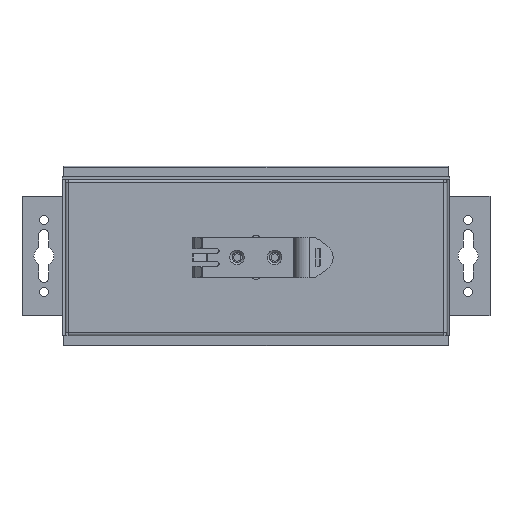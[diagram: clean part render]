
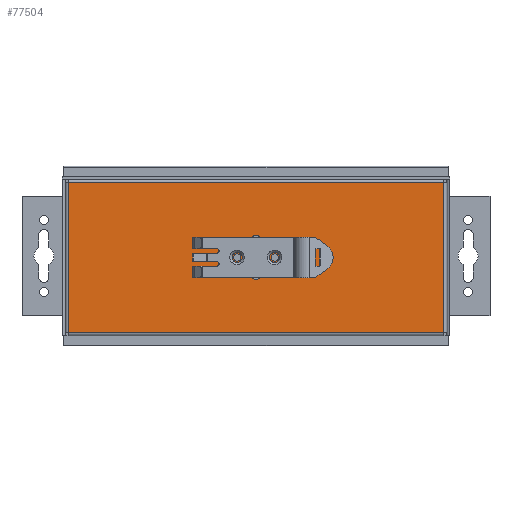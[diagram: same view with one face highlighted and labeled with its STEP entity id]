
A CAD part, front view. The second image highlights one B-rep face of the part: STEP entity #77504.
In plain terms, the highlighted planar face has unit normal (0, -1, 0).
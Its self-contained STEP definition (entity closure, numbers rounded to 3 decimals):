
#1082=FACE_BOUND('',#10909,.T.);
#1083=FACE_BOUND('',#10910,.T.);
#1084=FACE_BOUND('',#10911,.T.);
#1085=FACE_BOUND('',#10912,.T.);
#2281=PLANE('',#82310);
#6664=FACE_OUTER_BOUND('',#10908,.T.);
#10908=EDGE_LOOP('',(#61365,#61366,#61367,#61368));
#10909=EDGE_LOOP('',(#61369));
#10910=EDGE_LOOP('',(#61370));
#10911=EDGE_LOOP('',(#61371));
#10912=EDGE_LOOP('',(#61372));
#16710=LINE('',#127195,#25877);
#16724=LINE('',#127230,#25891);
#16729=LINE('',#127247,#25896);
#16742=LINE('',#127279,#25909);
#25877=VECTOR('',#93671,10.);
#25891=VECTOR('',#93713,10.);
#25896=VECTOR('',#93736,10.);
#25909=VECTOR('',#93777,10.);
#32611=CIRCLE('',#82230,1.265);
#32613=CIRCLE('',#82233,1.265);
#32615=CIRCLE('',#82236,1.265);
#32617=CIRCLE('',#82239,1.265);
#36397=VERTEX_POINT('',#127109);
#36399=VERTEX_POINT('',#127115);
#36401=VERTEX_POINT('',#127121);
#36403=VERTEX_POINT('',#127127);
#36418=VERTEX_POINT('',#127192);
#36419=VERTEX_POINT('',#127194);
#36426=VERTEX_POINT('',#127229);
#36429=VERTEX_POINT('',#127246);
#45400=EDGE_CURVE('',#36397,#36397,#32611,.T.);
#45403=EDGE_CURVE('',#36399,#36399,#32613,.T.);
#45406=EDGE_CURVE('',#36401,#36401,#32615,.T.);
#45409=EDGE_CURVE('',#36403,#36403,#32617,.T.);
#45442=EDGE_CURVE('',#36419,#36418,#16710,.T.);
#45461=EDGE_CURVE('',#36426,#36419,#16724,.T.);
#45471=EDGE_CURVE('',#36429,#36426,#16729,.T.);
#45488=EDGE_CURVE('',#36418,#36429,#16742,.T.);
#61365=ORIENTED_EDGE('',*,*,#45442,.T.);
#61366=ORIENTED_EDGE('',*,*,#45488,.T.);
#61367=ORIENTED_EDGE('',*,*,#45471,.T.);
#61368=ORIENTED_EDGE('',*,*,#45461,.T.);
#61369=ORIENTED_EDGE('',*,*,#45400,.T.);
#61370=ORIENTED_EDGE('',*,*,#45403,.T.);
#61371=ORIENTED_EDGE('',*,*,#45406,.T.);
#61372=ORIENTED_EDGE('',*,*,#45409,.T.);
#77504=ADVANCED_FACE('',(#6664,#1082,#1083,#1084,#1085),#2281,.F.);
#82230=AXIS2_PLACEMENT_3D('',#127110,#93574,#93575);
#82233=AXIS2_PLACEMENT_3D('',#127116,#93581,#93582);
#82236=AXIS2_PLACEMENT_3D('',#127122,#93588,#93589);
#82239=AXIS2_PLACEMENT_3D('',#127128,#93595,#93596);
#82310=AXIS2_PLACEMENT_3D('',#127297,#93803,#93804);
#93574=DIRECTION('center_axis',(0.,1.,0.));
#93575=DIRECTION('ref_axis',(0.,0.,-1.));
#93581=DIRECTION('center_axis',(0.,1.,0.));
#93582=DIRECTION('ref_axis',(0.,0.,-1.));
#93588=DIRECTION('center_axis',(0.,1.,0.));
#93589=DIRECTION('ref_axis',(0.,0.,-1.));
#93595=DIRECTION('center_axis',(0.,1.,0.));
#93596=DIRECTION('ref_axis',(0.,0.,-1.));
#93671=DIRECTION('',(1.,0.,0.));
#93713=DIRECTION('',(0.,0.,-1.));
#93736=DIRECTION('',(-1.,0.,0.));
#93777=DIRECTION('',(0.,0.,1.));
#93803=DIRECTION('center_axis',(0.,1.,0.));
#93804=DIRECTION('ref_axis',(1.,0.,0.));
#127109=CARTESIAN_POINT('',(63.7,-13.4,-30.436));
#127110=CARTESIAN_POINT('Origin',(63.7,-13.4,-31.7));
#127115=CARTESIAN_POINT('',(63.7,-13.4,-17.436));
#127116=CARTESIAN_POINT('Origin',(63.7,-13.4,-18.7));
#127121=CARTESIAN_POINT('',(57.2,-13.4,-23.936));
#127122=CARTESIAN_POINT('Origin',(57.2,-13.4,-25.2));
#127127=CARTESIAN_POINT('',(70.2,-13.4,-23.936));
#127128=CARTESIAN_POINT('Origin',(70.2,-13.4,-25.2));
#127192=CARTESIAN_POINT('',(128.79,-13.4,-51.34));
#127194=CARTESIAN_POINT('',(-1.39,-13.4,-51.34));
#127195=CARTESIAN_POINT('',(96.245,-13.4,-51.34));
#127229=CARTESIAN_POINT('',(-1.39,-13.4,0.94));
#127230=CARTESIAN_POINT('',(-1.39,-13.4,-38.775));
#127246=CARTESIAN_POINT('',(128.79,-13.4,0.94));
#127247=CARTESIAN_POINT('',(31.155,-13.4,0.94));
#127279=CARTESIAN_POINT('',(128.79,-13.4,-11.625));
#127297=CARTESIAN_POINT('Origin',(63.7,-13.4,-25.2));
